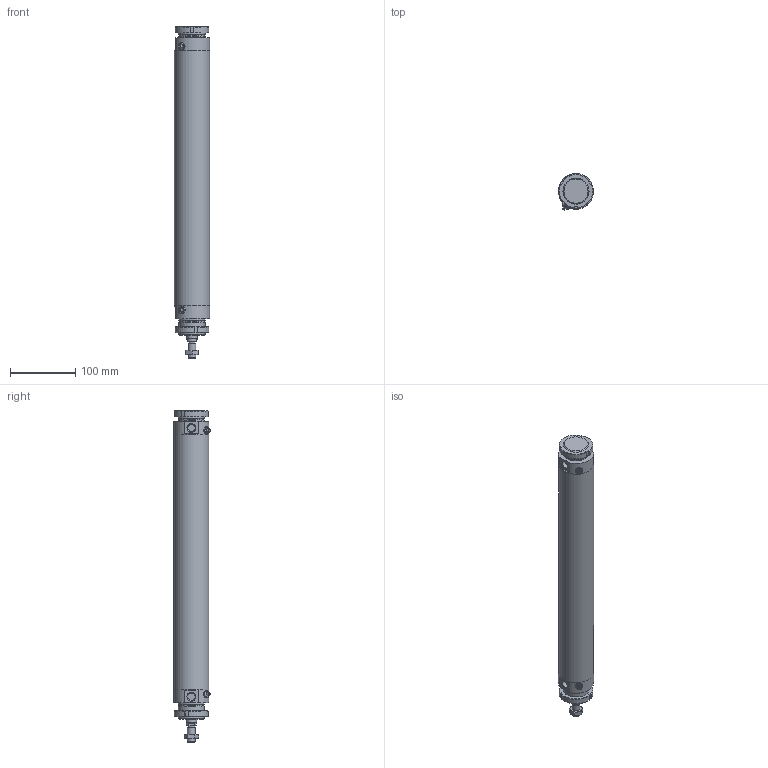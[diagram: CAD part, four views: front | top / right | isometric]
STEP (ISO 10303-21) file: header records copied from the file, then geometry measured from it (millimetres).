
FILE_DESCRIPTION(/* description */ (''),/* implementation_level */ '2;1');
FILE_NAME(/* name */ 'I:\Area Tecnica\Documenti\A-Manieri\_Inventor\12X\12X#C_###_####_#_#\12XBC_050_0350_#_#.stp',/* time_stamp */ '2015-04-28T15:44:10+02:00',/* author */ ('maniean1'),/* organization */ ('Pneumax S.p.A.'),/* preprocessor_version */ 'ST-DEVELOPER v15.2',/* originating_system */ 'Autodesk Inventor 2014',/* authorisation */ '');
FILE_SCHEMA (('AUTOMOTIVE_DESIGN { 1 0 10303 214 3 1 1 }'));
Length unit declared in the file: millimetre
Products named in the file (7): C1250_619-0350; 12X50_606; S12X50_0350; 12X_50_11; 12X50_621; G12X_050_05; 12XBC_050_0350_#_#
Bounding box: 54 x 55.88 x 510 mm (x, y, z)
Volume: 446858.3 mm3; surface area: 193970.6 mm2
Topology: 7 solids, 7 shells, 124 faces, 282 edges, 182 vertices
Faces by surface type: plane 64, cylinder 31, cone 27, torus 2
Full cylindrical faces by diameter (mm): 5 x2, 10.2 x1, 11 x2, 11.4 x2, 12 x2, 14 x1, 15.6 x1, 16 x1, 38.2 x2, 40 x6, 50 x2, 54 x3
Entity records: 2755 total; most frequent: CARTESIAN_POINT 553, DIRECTION 462, ORIENTED_EDGE 356, AXIS2_PLACEMENT_3D 197, EDGE_CURVE 178, EDGE_LOOP 160, VERTEX_POINT 136, ADVANCED_FACE 103
